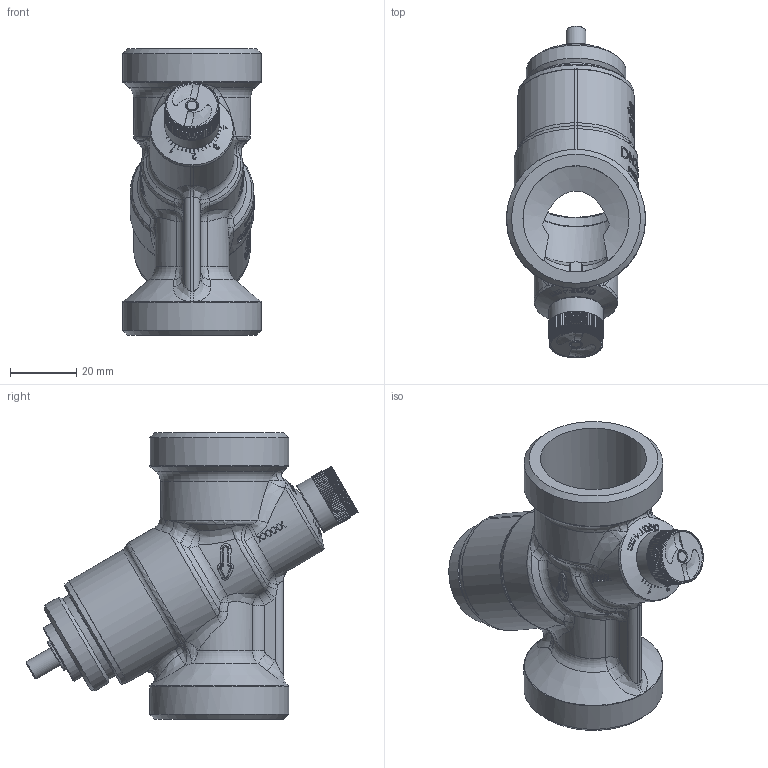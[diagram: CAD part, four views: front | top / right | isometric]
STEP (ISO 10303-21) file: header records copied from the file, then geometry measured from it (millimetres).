
FILE_DESCRIPTION(/* description */ ('Ventil on/off DN25 N/N High'),/* implementation_level */ '2;1');
FILE_NAME(/* name */ 'C:\Users\cbr\Desktop\01-0243.stp',/* time_stamp */ '2019-10-23T10:04:46+02:00',/* author */ ('cbr'),/* organization */ (''),/* preprocessor_version */ 'ST-DEVELOPER v17.2',/* originating_system */ 'Autodesk Inventor 2019',/* authorisation */ '');
FILE_SCHEMA (('AUTOMOTIVE_DESIGN { 1 0 10303 214 3 1 1 }'));
Length unit declared in the file: millimetre
Products named in the file (21): 01-0243; 59769; 901310; 69706; 75609; 68936; 73039-90778; 66591; 66083; 80502; 79168-901310; 73160-901310; 73047; 66592; 80503; 73039-01-02XX; 75315; 67467; 79169; 75612; 91707_01-0243
Assembly tree (22 placements, depth 3):
  01-0243
    59769
    901310
      69706
      75609
      68936
      73039-90778  x2
      66591
      66083
      80502
      79168-901310
      73160-901310
      73047
      66592
      79169
    80503
    73039-01-02XX
    75315
    67467
    79169
    75612
    91707_01-0243
Bounding box: 41.91 x 100.09 x 86.5 mm (x, y, z)
Volume: 50653.2 mm3; surface area: 44493.5 mm2
Topology: 112 solids, 112 shells, 2533 faces, 6741 edges, 4469 vertices
Faces by surface type: plane 1111, bspline 750, cylinder 447, cone 132, torus 77, sphere 16
Full cylindrical faces by diameter (mm): 2 x1, 3 x1, 3.1 x2, 3.2 x2, 3.3 x1, 4 x2, 6 x3, 6.1 x2, 6.2 x5, 6.3 x1, 7 x1, 7.4 x1, 7.5 x2, 8 x1, 9.3 x1, 9.5 x1, 9.6 x2, 10 x3, 11 x2, 11.5 x1, 12 x2, 14.5 x1, 15.6 x1, 16.5 x1, 18.6 x1, 19 x1, 21 x1, 22 x1, 22.3 x1, 23.5 x1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
Entity records: 105079 total; most frequent: CARTESIAN_POINT 45222, ORIENTED_EDGE 13338, DIRECTION 10095, EDGE_CURVE 6669, VERTEX_POINT 4428, AXIS2_PLACEMENT_3D 3402, LINE 3291, VECTOR 3291
